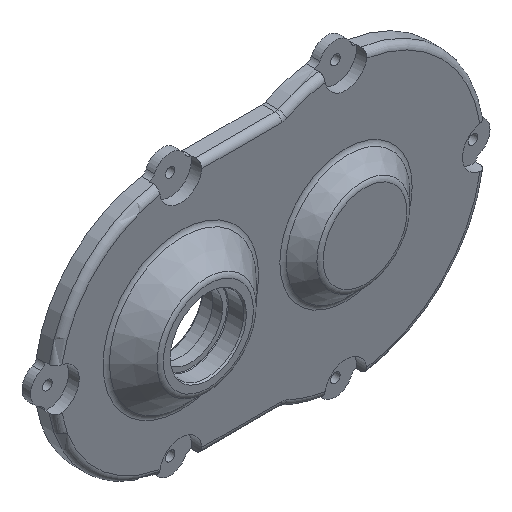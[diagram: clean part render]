
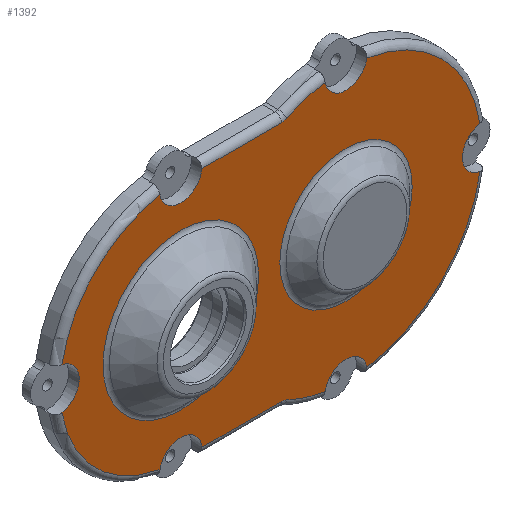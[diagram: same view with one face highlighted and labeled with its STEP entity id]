
A CAD part, isometric view. The second image highlights one B-rep face of the part: STEP entity #1392.
In plain terms, the highlighted planar face has unit normal (0, -1, 0).
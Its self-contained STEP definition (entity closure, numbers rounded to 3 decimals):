
#100=FACE_BOUND('',#242,.T.);
#101=FACE_BOUND('',#243,.T.);
#115=PLANE('',#1571);
#147=FACE_OUTER_BOUND('',#241,.T.);
#241=EDGE_LOOP('',(#1063,#1064,#1065,#1066,#1067,#1068,#1069,#1070,#1071,
#1072,#1073,#1074,#1075,#1076,#1077,#1078));
#242=EDGE_LOOP('',(#1079));
#243=EDGE_LOOP('',(#1080));
#319=LINE('',#2397,#381);
#320=LINE('',#2409,#382);
#381=VECTOR('',#1913,10.);
#382=VECTOR('',#1924,10.);
#505=CIRCLE('',#1570,31.243);
#506=CIRCLE('',#1572,10.);
#507=CIRCLE('',#1573,64.);
#508=CIRCLE('',#1574,6.);
#509=CIRCLE('',#1575,10.);
#510=CIRCLE('',#1576,57.);
#511=CIRCLE('',#1577,10.);
#512=CIRCLE('',#1578,57.);
#513=CIRCLE('',#1579,10.);
#514=CIRCLE('',#1580,6.);
#515=CIRCLE('',#1581,64.);
#516=CIRCLE('',#1582,10.);
#517=CIRCLE('',#1583,64.);
#518=CIRCLE('',#1584,10.);
#519=CIRCLE('',#1585,64.);
#520=CIRCLE('',#1586,36.743);
#642=VERTEX_POINT('',#2385);
#643=VERTEX_POINT('',#2389);
#644=VERTEX_POINT('',#2390);
#645=VERTEX_POINT('',#2392);
#646=VERTEX_POINT('',#2394);
#647=VERTEX_POINT('',#2396);
#648=VERTEX_POINT('',#2398);
#649=VERTEX_POINT('',#2400);
#650=VERTEX_POINT('',#2402);
#651=VERTEX_POINT('',#2404);
#652=VERTEX_POINT('',#2406);
#653=VERTEX_POINT('',#2408);
#654=VERTEX_POINT('',#2410);
#655=VERTEX_POINT('',#2412);
#656=VERTEX_POINT('',#2414);
#657=VERTEX_POINT('',#2416);
#658=VERTEX_POINT('',#2418);
#659=VERTEX_POINT('',#2421);
#800=EDGE_CURVE('',#642,#642,#505,.T.);
#801=EDGE_CURVE('',#643,#644,#506,.T.);
#802=EDGE_CURVE('',#645,#644,#507,.T.);
#803=EDGE_CURVE('',#646,#645,#508,.T.);
#804=EDGE_CURVE('',#647,#646,#319,.T.);
#805=EDGE_CURVE('',#647,#648,#509,.T.);
#806=EDGE_CURVE('',#649,#648,#510,.T.);
#807=EDGE_CURVE('',#649,#650,#511,.T.);
#808=EDGE_CURVE('',#651,#650,#512,.T.);
#809=EDGE_CURVE('',#651,#652,#513,.T.);
#810=EDGE_CURVE('',#653,#652,#320,.T.);
#811=EDGE_CURVE('',#654,#653,#514,.T.);
#812=EDGE_CURVE('',#655,#654,#515,.T.);
#813=EDGE_CURVE('',#655,#656,#516,.T.);
#814=EDGE_CURVE('',#657,#656,#517,.T.);
#815=EDGE_CURVE('',#657,#658,#518,.T.);
#816=EDGE_CURVE('',#643,#658,#519,.T.);
#817=EDGE_CURVE('',#659,#659,#520,.T.);
#1063=ORIENTED_EDGE('',*,*,#801,.T.);
#1064=ORIENTED_EDGE('',*,*,#802,.F.);
#1065=ORIENTED_EDGE('',*,*,#803,.F.);
#1066=ORIENTED_EDGE('',*,*,#804,.F.);
#1067=ORIENTED_EDGE('',*,*,#805,.T.);
#1068=ORIENTED_EDGE('',*,*,#806,.F.);
#1069=ORIENTED_EDGE('',*,*,#807,.T.);
#1070=ORIENTED_EDGE('',*,*,#808,.F.);
#1071=ORIENTED_EDGE('',*,*,#809,.T.);
#1072=ORIENTED_EDGE('',*,*,#810,.F.);
#1073=ORIENTED_EDGE('',*,*,#811,.F.);
#1074=ORIENTED_EDGE('',*,*,#812,.F.);
#1075=ORIENTED_EDGE('',*,*,#813,.T.);
#1076=ORIENTED_EDGE('',*,*,#814,.F.);
#1077=ORIENTED_EDGE('',*,*,#815,.T.);
#1078=ORIENTED_EDGE('',*,*,#816,.F.);
#1079=ORIENTED_EDGE('',*,*,#817,.F.);
#1080=ORIENTED_EDGE('',*,*,#800,.F.);
#1392=ADVANCED_FACE('',(#147,#100,#101),#115,.F.);
#1570=AXIS2_PLACEMENT_3D('',#2387,#1903,#1904);
#1571=AXIS2_PLACEMENT_3D('',#2388,#1905,#1906);
#1572=AXIS2_PLACEMENT_3D('',#2391,#1907,#1908);
#1573=AXIS2_PLACEMENT_3D('',#2393,#1909,#1910);
#1574=AXIS2_PLACEMENT_3D('',#2395,#1911,#1912);
#1575=AXIS2_PLACEMENT_3D('',#2399,#1914,#1915);
#1576=AXIS2_PLACEMENT_3D('',#2401,#1916,#1917);
#1577=AXIS2_PLACEMENT_3D('',#2403,#1918,#1919);
#1578=AXIS2_PLACEMENT_3D('',#2405,#1920,#1921);
#1579=AXIS2_PLACEMENT_3D('',#2407,#1922,#1923);
#1580=AXIS2_PLACEMENT_3D('',#2411,#1925,#1926);
#1581=AXIS2_PLACEMENT_3D('',#2413,#1927,#1928);
#1582=AXIS2_PLACEMENT_3D('',#2415,#1929,#1930);
#1583=AXIS2_PLACEMENT_3D('',#2417,#1931,#1932);
#1584=AXIS2_PLACEMENT_3D('',#2419,#1933,#1934);
#1585=AXIS2_PLACEMENT_3D('',#2420,#1935,#1936);
#1586=AXIS2_PLACEMENT_3D('',#2422,#1937,#1938);
#1903=DIRECTION('center_axis',(0.,-1.,0.));
#1904=DIRECTION('ref_axis',(-1.,0.,0.));
#1905=DIRECTION('center_axis',(0.,1.,0.));
#1906=DIRECTION('ref_axis',(0.,0.,1.));
#1907=DIRECTION('center_axis',(0.,1.,0.));
#1908=DIRECTION('ref_axis',(1.,0.,0.));
#1909=DIRECTION('center_axis',(0.,1.,0.));
#1910=DIRECTION('ref_axis',(-0.294,0.,0.956));
#1911=DIRECTION('center_axis',(0.,-1.,0.));
#1912=DIRECTION('ref_axis',(0.224,0.,-0.975));
#1913=DIRECTION('',(1.,0.,0.));
#1914=DIRECTION('center_axis',(0.,1.,0.));
#1915=DIRECTION('ref_axis',(1.,0.,0.));
#1916=DIRECTION('center_axis',(0.,1.,0.));
#1917=DIRECTION('ref_axis',(-0.707,0.,0.707));
#1918=DIRECTION('center_axis',(0.,1.,0.));
#1919=DIRECTION('ref_axis',(1.,0.,0.));
#1920=DIRECTION('center_axis',(0.,1.,0.));
#1921=DIRECTION('ref_axis',(-0.707,0.,-0.707));
#1922=DIRECTION('center_axis',(0.,1.,0.));
#1923=DIRECTION('ref_axis',(1.,0.,0.));
#1924=DIRECTION('',(-1.,0.,0.));
#1925=DIRECTION('center_axis',(0.,-1.,0.));
#1926=DIRECTION('ref_axis',(0.224,0.,0.975));
#1927=DIRECTION('center_axis',(0.,1.,0.));
#1928=DIRECTION('ref_axis',(-0.294,0.,-0.956));
#1929=DIRECTION('center_axis',(0.,1.,0.));
#1930=DIRECTION('ref_axis',(1.,0.,0.));
#1931=DIRECTION('center_axis',(0.,1.,0.));
#1932=DIRECTION('ref_axis',(0.707,0.,-0.707));
#1933=DIRECTION('center_axis',(0.,1.,0.));
#1934=DIRECTION('ref_axis',(1.,0.,0.));
#1935=DIRECTION('center_axis',(0.,1.,0.));
#1936=DIRECTION('ref_axis',(0.707,0.,0.707));
#1937=DIRECTION('center_axis',(0.,-1.,0.));
#1938=DIRECTION('ref_axis',(-1.,0.,0.));
#2385=CARTESIAN_POINT('',(0.,-9.,-31.243));
#2387=CARTESIAN_POINT('Origin',(0.,-9.,0.));
#2388=CARTESIAN_POINT('Origin',(-35.5,-9.,0.));
#2389=CARTESIAN_POINT('',(9.844,-9.,63.238));
#2390=CARTESIAN_POINT('',(-9.844,-9.,63.238));
#2391=CARTESIAN_POINT('Origin',(0.,-9.,65.));
#2392=CARTESIAN_POINT('',(-27.897,-9.,57.6));
#2393=CARTESIAN_POINT('Origin',(0.,-9.,0.));
#2394=CARTESIAN_POINT('',(-30.512,-9.,57.));
#2395=CARTESIAN_POINT('Origin',(-30.512,-9.,63.));
#2396=CARTESIAN_POINT('',(-68.05,-9.,57.));
#2397=CARTESIAN_POINT('',(-33.006,-9.,57.));
#2398=CARTESIAN_POINT('',(-87.827,-9.,56.147));
#2399=CARTESIAN_POINT('Origin',(-78.,-9.,58.));
#2400=CARTESIAN_POINT('',(-134.147,-9.,9.827));
#2401=CARTESIAN_POINT('Origin',(-78.,-9.,0.));
#2402=CARTESIAN_POINT('',(-134.147,-9.,-9.827));
#2403=CARTESIAN_POINT('Origin',(-136.,-9.,0.));
#2404=CARTESIAN_POINT('',(-87.827,-9.,-56.147));
#2405=CARTESIAN_POINT('Origin',(-78.,-9.,0.));
#2406=CARTESIAN_POINT('',(-68.05,-9.,-57.));
#2407=CARTESIAN_POINT('Origin',(-78.,-9.,-58.));
#2408=CARTESIAN_POINT('',(-30.512,-9.,-57.));
#2409=CARTESIAN_POINT('',(-51.851,-9.,-57.));
#2410=CARTESIAN_POINT('',(-27.897,-9.,-57.6));
#2411=CARTESIAN_POINT('Origin',(-30.512,-9.,-63.));
#2412=CARTESIAN_POINT('',(-9.844,-9.,-63.238));
#2413=CARTESIAN_POINT('Origin',(0.,-9.,0.));
#2414=CARTESIAN_POINT('',(9.844,-9.,-63.238));
#2415=CARTESIAN_POINT('Origin',(0.,-9.,-65.));
#2416=CARTESIAN_POINT('',(63.238,-9.,-9.844));
#2417=CARTESIAN_POINT('Origin',(0.,-9.,0.));
#2418=CARTESIAN_POINT('',(63.238,-9.,9.844));
#2419=CARTESIAN_POINT('Origin',(65.,-9.,0.));
#2420=CARTESIAN_POINT('Origin',(0.,-9.,0.));
#2421=CARTESIAN_POINT('',(-78.,-9.,-36.743));
#2422=CARTESIAN_POINT('Origin',(-78.,-9.,0.));
